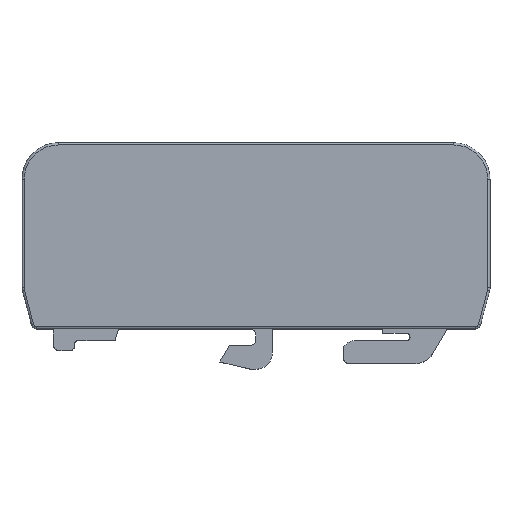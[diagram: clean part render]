
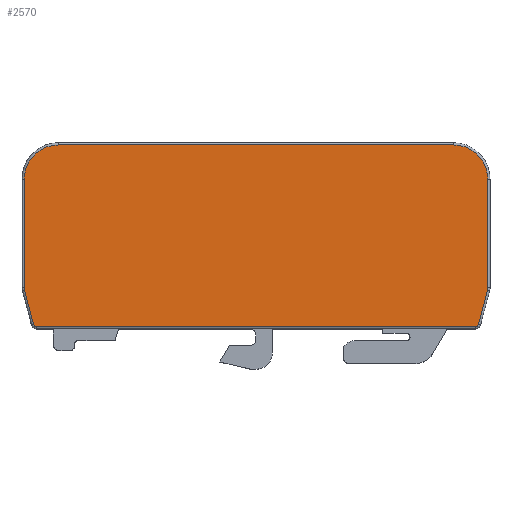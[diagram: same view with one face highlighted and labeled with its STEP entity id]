
A CAD part, top view. The second image highlights one B-rep face of the part: STEP entity #2570.
In plain terms, the highlighted planar face has unit normal (0, 0, 1).
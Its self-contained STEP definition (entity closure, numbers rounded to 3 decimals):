
#5 = CARTESIAN_POINT ( 'NONE',  ( -20.434, 0.422, 5.15 ) ) ;
#20 = EDGE_CURVE ( 'NONE', #870, #3329, #1316, .T. ) ;
#27 = VERTEX_POINT ( 'NONE', #3055 ) ;
#108 = EDGE_CURVE ( 'NONE', #2684, #870, #1782, .T. ) ;
#111 = CARTESIAN_POINT ( 'NONE',  ( 21.273, 3.553, 5.15 ) ) ;
#157 = ORIENTED_EDGE ( 'NONE', *, *, #3505, .T. ) ;
#160 = ORIENTED_EDGE ( 'NONE', *, *, #3224, .T. ) ;
#190 = EDGE_CURVE ( 'NONE', #2489, #2684, #3263, .T. ) ;
#278 = EDGE_CURVE ( 'NONE', #2564, #2489, #2953, .T. ) ;
#288 = CIRCLE ( 'NONE', #3568, 3.15 ) ;
#294 = CIRCLE ( 'NONE', #899, 0.8 ) ;
#361 = EDGE_CURVE ( 'NONE', #1557, #2564, #629, .T. ) ;
#394 = FACE_OUTER_BOUND ( 'NONE', #2873, .T. ) ;
#401 = CARTESIAN_POINT ( 'NONE',  ( -20.5, 3.76, 5.15 ) ) ;
#441 = ORIENTED_EDGE ( 'NONE', *, *, #3058, .T. ) ;
#524 = DIRECTION ( 'NONE',  ( 0., 0., 1. ) ) ;
#576 = CARTESIAN_POINT ( 'NONE',  ( -21.3, 13.75, 5.15 ) ) ;
#586 = CARTESIAN_POINT ( 'NONE',  ( -20.144, 0.2, 5.15 ) ) ;
#588 = CARTESIAN_POINT ( 'NONE',  ( 18.15, 16.9, 5.15 ) ) ;
#598 = ORIENTED_EDGE ( 'NONE', *, *, #278, .T. ) ;
#629 = LINE ( 'NONE', #5, #4129 ) ;
#637 = CARTESIAN_POINT ( 'NONE',  ( -20.434, 0.422, 5.15 ) ) ;
#650 = CARTESIAN_POINT ( 'NONE',  ( 18.15, 13.75, 5.15 ) ) ;
#738 = DIRECTION ( 'NONE',  ( 1., 0., 0. ) ) ;
#759 = VECTOR ( 'NONE', #2115, 1000. ) ;
#799 = VERTEX_POINT ( 'NONE', #1275 ) ;
#867 = LINE ( 'NONE', #1765, #759 ) ;
#870 = VERTEX_POINT ( 'NONE', #3711 ) ;
#899 = AXIS2_PLACEMENT_3D ( 'NONE', #401, #2760, #738 ) ;
#919 = VECTOR ( 'NONE', #1942, 1000. ) ;
#987 = DIRECTION ( 'NONE',  ( 1., 0., 0. ) ) ;
#1061 = CARTESIAN_POINT ( 'NONE',  ( -20.144, 0.5, 5.15 ) ) ;
#1130 = AXIS2_PLACEMENT_3D ( 'NONE', #1061, #3433, #1407 ) ;
#1275 = CARTESIAN_POINT ( 'NONE',  ( 21.3, 13.75, 5.15 ) ) ;
#1316 = LINE ( 'NONE', #111, #2902 ) ;
#1321 = VERTEX_POINT ( 'NONE', #576 ) ;
#1352 = VERTEX_POINT ( 'NONE', #588 ) ;
#1407 = DIRECTION ( 'NONE',  ( 1., 0., 0. ) ) ;
#1447 = CIRCLE ( 'NONE', #2709, 0.8 ) ;
#1452 = ORIENTED_EDGE ( 'NONE', *, *, #361, .T. ) ;
#1472 = DIRECTION ( 'NONE',  ( 0., 0., 1. ) ) ;
#1498 = ORIENTED_EDGE ( 'NONE', *, *, #20, .T. ) ;
#1557 = VERTEX_POINT ( 'NONE', #2185 ) ;
#1647 = PLANE ( 'NONE',  #2821 ) ;
#1737 = CARTESIAN_POINT ( 'NONE',  ( 20.144, 0.5, 5.15 ) ) ;
#1765 = CARTESIAN_POINT ( 'NONE',  ( -21.3, 3.76, 5.15 ) ) ;
#1782 = CIRCLE ( 'NONE', #3490, 0.3 ) ;
#1942 = DIRECTION ( 'NONE',  ( -1., 0., 0. ) ) ;
#1975 = LINE ( 'NONE', #4314, #919 ) ;
#1999 = DIRECTION ( 'NONE',  ( 1., 0., 0. ) ) ;
#2020 = DIRECTION ( 'NONE',  ( 0.259, -0.966, 0. ) ) ;
#2062 = CARTESIAN_POINT ( 'NONE',  ( 20.144, 0.2, 5.15 ) ) ;
#2083 = DIRECTION ( 'NONE',  ( 1., 0., 0. ) ) ;
#2101 = ORIENTED_EDGE ( 'NONE', *, *, #3342, .T. ) ;
#2115 = DIRECTION ( 'NONE',  ( 0., -1., 0. ) ) ;
#2121 = AXIS2_PLACEMENT_3D ( 'NONE', #650, #3013, #987 ) ;
#2136 = VECTOR ( 'NONE', #2837, 1000. ) ;
#2185 = CARTESIAN_POINT ( 'NONE',  ( -21.273, 3.553, 5.15 ) ) ;
#2273 = VECTOR ( 'NONE', #3375, 1000. ) ;
#2473 = ORIENTED_EDGE ( 'NONE', *, *, #108, .T. ) ;
#2489 = VERTEX_POINT ( 'NONE', #586 ) ;
#2556 = CARTESIAN_POINT ( 'NONE',  ( -18.15, 13.75, 5.15 ) ) ;
#2564 = VERTEX_POINT ( 'NONE', #637 ) ;
#2570 = ADVANCED_FACE ( 'NONE', ( #394 ), #1647, .T. ) ;
#2659 = CARTESIAN_POINT ( 'NONE',  ( -20.144, 0.5, 5.15 ) ) ;
#2684 = VERTEX_POINT ( 'NONE', #2062 ) ;
#2709 = AXIS2_PLACEMENT_3D ( 'NONE', #3497, #1472, #3847 ) ;
#2715 = DIRECTION ( 'NONE',  ( 0.259, 0.966, 0. ) ) ;
#2760 = DIRECTION ( 'NONE',  ( 0., 0., 1. ) ) ;
#2821 = AXIS2_PLACEMENT_3D ( 'NONE', #2659, #4028, #1999 ) ;
#2837 = DIRECTION ( 'NONE',  ( 0., 1., 0. ) ) ;
#2873 = EDGE_LOOP ( 'NONE', ( #3937, #160, #3366, #441, #3176, #2101, #1452, #598, #3291, #2473, #1498, #157 ) ) ;
#2883 = DIRECTION ( 'NONE',  ( 1., 0., 0. ) ) ;
#2902 = VECTOR ( 'NONE', #2715, 1000. ) ;
#2953 = CIRCLE ( 'NONE', #1130, 0.3 ) ;
#3013 = DIRECTION ( 'NONE',  ( 0., 0., 1. ) ) ;
#3023 = CARTESIAN_POINT ( 'NONE',  ( 21.3, 3.76, 5.15 ) ) ;
#3029 = LINE ( 'NONE', #3515, #2136 ) ;
#3055 = CARTESIAN_POINT ( 'NONE',  ( -18.15, 16.9, 5.15 ) ) ;
#3058 = EDGE_CURVE ( 'NONE', #27, #1321, #288, .T. ) ;
#3102 = CARTESIAN_POINT ( 'NONE',  ( -21.3, 3.76, 5.15 ) ) ;
#3137 = EDGE_CURVE ( 'NONE', #1352, #27, #1975, .T. ) ;
#3176 = ORIENTED_EDGE ( 'NONE', *, *, #3431, .T. ) ;
#3224 = EDGE_CURVE ( 'NONE', #799, #1352, #3410, .T. ) ;
#3263 = LINE ( 'NONE', #3487, #2273 ) ;
#3291 = ORIENTED_EDGE ( 'NONE', *, *, #190, .T. ) ;
#3329 = VERTEX_POINT ( 'NONE', #3416 ) ;
#3342 = EDGE_CURVE ( 'NONE', #3957, #1557, #294, .T. ) ;
#3366 = ORIENTED_EDGE ( 'NONE', *, *, #3137, .T. ) ;
#3375 = DIRECTION ( 'NONE',  ( 1., 0., 0. ) ) ;
#3410 = CIRCLE ( 'NONE', #2121, 3.15 ) ;
#3416 = CARTESIAN_POINT ( 'NONE',  ( 21.273, 3.553, 5.15 ) ) ;
#3431 = EDGE_CURVE ( 'NONE', #1321, #3957, #867, .T. ) ;
#3433 = DIRECTION ( 'NONE',  ( 0., 0., 1. ) ) ;
#3487 = CARTESIAN_POINT ( 'NONE',  ( 20.144, 0.2, 5.15 ) ) ;
#3490 = AXIS2_PLACEMENT_3D ( 'NONE', #1737, #4121, #2083 ) ;
#3497 = CARTESIAN_POINT ( 'NONE',  ( 20.5, 3.76, 5.15 ) ) ;
#3505 = EDGE_CURVE ( 'NONE', #3329, #3839, #1447, .T. ) ;
#3515 = CARTESIAN_POINT ( 'NONE',  ( 21.3, 13.75, 5.15 ) ) ;
#3542 = EDGE_CURVE ( 'NONE', #3839, #799, #3029, .T. ) ;
#3568 = AXIS2_PLACEMENT_3D ( 'NONE', #2556, #524, #2883 ) ;
#3711 = CARTESIAN_POINT ( 'NONE',  ( 20.434, 0.422, 5.15 ) ) ;
#3839 = VERTEX_POINT ( 'NONE', #3023 ) ;
#3847 = DIRECTION ( 'NONE',  ( 1., 0., 0. ) ) ;
#3937 = ORIENTED_EDGE ( 'NONE', *, *, #3542, .T. ) ;
#3957 = VERTEX_POINT ( 'NONE', #3102 ) ;
#4028 = DIRECTION ( 'NONE',  ( 0., 0., 1. ) ) ;
#4121 = DIRECTION ( 'NONE',  ( 0., 0., 1. ) ) ;
#4129 = VECTOR ( 'NONE', #2020, 1000. ) ;
#4314 = CARTESIAN_POINT ( 'NONE',  ( -18.15, 16.9, 5.15 ) ) ;
